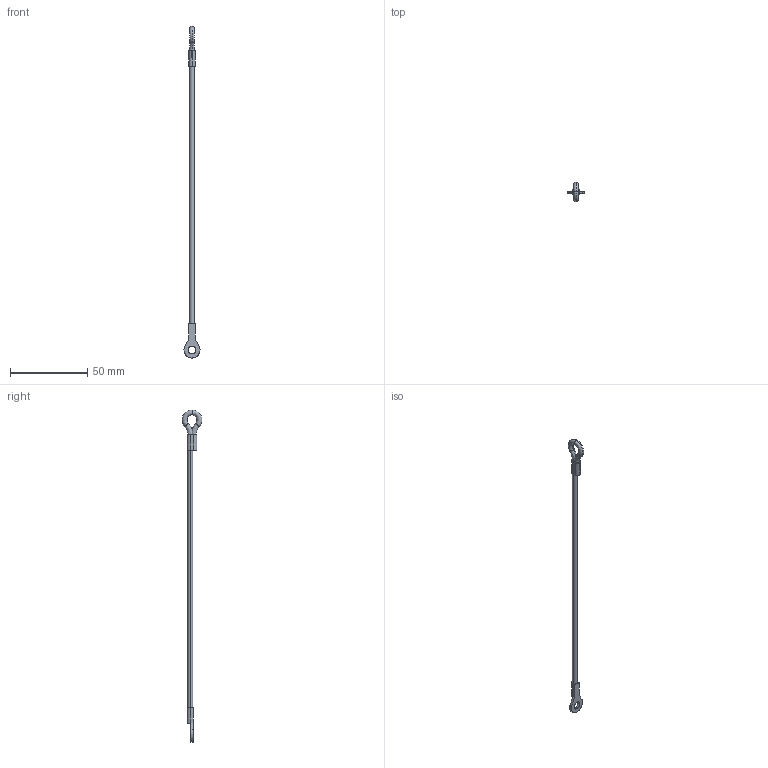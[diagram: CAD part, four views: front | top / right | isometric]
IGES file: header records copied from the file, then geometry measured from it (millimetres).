
Start section: SolidWorks IGES file using analytic representation for surfaces
Global section: file name: C:\Users\ianosborn\Desktop\LA1075_v2\LA1075_v2_20260320_IGES\LA1075.I06-203C1.igs; native system: SolidWorks 2019; preprocessor: SolidWorks 2019; author: IanOsborn; date: 260323.164422; units: millimetre
Bounding box: 10.41 x 12.75 x 214.79 mm (x, y, z)
Surface area: 2586.6 mm2 (no closed solid volume)
Topology: 0 solids, 0 shells, 30 faces, 460 edges, 460 vertices
Faces by surface type: bspline 20, revolution 10
